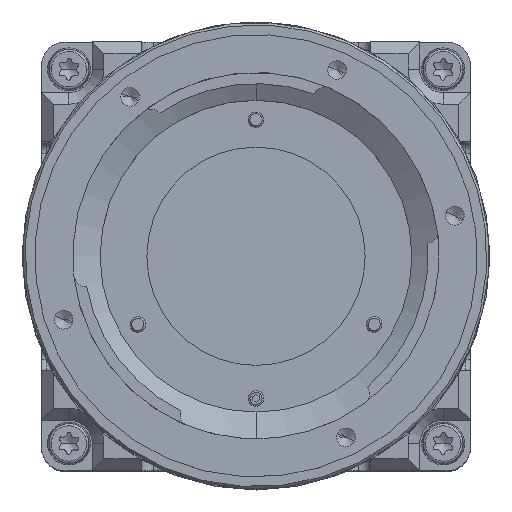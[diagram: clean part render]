
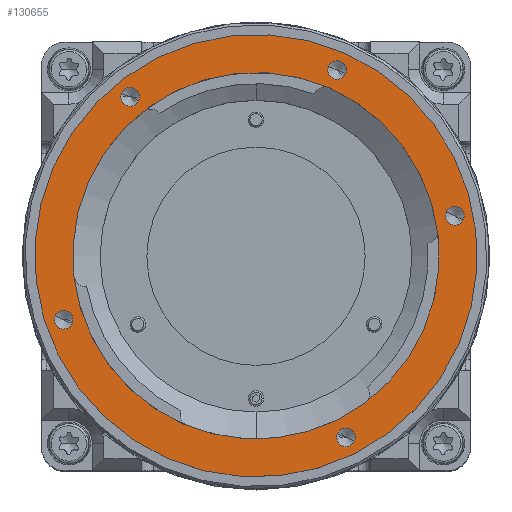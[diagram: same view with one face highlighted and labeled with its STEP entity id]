
A CAD part, top view. The second image highlights one B-rep face of the part: STEP entity #130655.
In plain terms, the highlighted planar face has unit normal (0, 0, 1).
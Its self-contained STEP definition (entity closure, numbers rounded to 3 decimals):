
#303 = CARTESIAN_POINT ( 'NONE',  ( 0., 0., 54.344 ) ) ;
#511 = DIRECTION ( 'NONE',  ( 0., 0., 1. ) ) ;
#3941 = DIRECTION ( 'NONE',  ( 0.916, -0.401, 0. ) ) ;
#4302 = DIRECTION ( 'NONE',  ( 0.916, -0.401, 0. ) ) ;
#6260 = AXIS2_PLACEMENT_3D ( 'NONE', #140104, #122855, #66965 ) ;
#6762 = CARTESIAN_POINT ( 'NONE',  ( 25.488, 5.132, 54.344 ) ) ;
#6978 = VERTEX_POINT ( 'NONE', #81584 ) ;
#7149 = ORIENTED_EDGE ( 'NONE', *, *, #125269, .F. ) ;
#8449 = CARTESIAN_POINT ( 'NONE',  ( -24.673, -8.2, 54.344 ) ) ;
#8832 = ORIENTED_EDGE ( 'NONE', *, *, #20323, .F. ) ;
#9115 = ORIENTED_EDGE ( 'NONE', *, *, #12937, .F. ) ;
#12937 = EDGE_CURVE ( 'NONE', #18758, #37312, #96076, .T. ) ;
#16169 = CIRCLE ( 'NONE', #136106, 28.375 ) ;
#17104 = CIRCLE ( 'NONE', #124658, 1.2 ) ;
#17803 = CARTESIAN_POINT ( 'NONE',  ( 25.999, -11.367, 54.344 ) ) ;
#18379 = DIRECTION ( 'NONE',  ( 0., 0., 1. ) ) ;
#18758 = VERTEX_POINT ( 'NONE', #179960 ) ;
#18959 = DIRECTION ( 'NONE',  ( 0.916, -0.401, 0. ) ) ;
#19255 = AXIS2_PLACEMENT_3D ( 'NONE', #8449, #95096, #138449 ) ;
#20323 = EDGE_CURVE ( 'NONE', #119487, #34934, #119203, .T. ) ;
#24675 = EDGE_LOOP ( 'NONE', ( #56058, #108823 ) ) ;
#27723 = ORIENTED_EDGE ( 'NONE', *, *, #82345, .F. ) ;
#28053 = CARTESIAN_POINT ( 'NONE',  ( 12.653, -23.772, 54.344 ) ) ;
#29710 = CARTESIAN_POINT ( 'NONE',  ( -25.999, 11.367, 54.344 ) ) ;
#32192 = CARTESIAN_POINT ( 'NONE',  ( -21.532, 9.414, 54.344 ) ) ;
#34450 = AXIS2_PLACEMENT_3D ( 'NONE', #136173, #153449, #37943 ) ;
#34508 = CARTESIAN_POINT ( 'NONE',  ( 11.515, 23.342, 54.344 ) ) ;
#34934 = VERTEX_POINT ( 'NONE', #170926 ) ;
#36906 = CIRCLE ( 'NONE', #79869, 1.2 ) ;
#37312 = VERTEX_POINT ( 'NONE', #99960 ) ;
#37943 = DIRECTION ( 'NONE',  ( 0.916, -0.401, 0. ) ) ;
#39811 = VERTEX_POINT ( 'NONE', #174175 ) ;
#40735 = CIRCLE ( 'NONE', #80679, 28.375 ) ;
#41275 = VERTEX_POINT ( 'NONE', #59401 ) ;
#41320 = PLANE ( 'NONE',  #171089 ) ;
#46179 = VERTEX_POINT ( 'NONE', #29710 ) ;
#46660 = ORIENTED_EDGE ( 'NONE', *, *, #135994, .F. ) ;
#49499 = CARTESIAN_POINT ( 'NONE',  ( 0., 0., 54.344 ) ) ;
#50608 = CARTESIAN_POINT ( 'NONE',  ( 25.488, 5.132, 54.344 ) ) ;
#50940 = DIRECTION ( 'NONE',  ( 0., 0., 1. ) ) ;
#51536 = DIRECTION ( 'NONE',  ( 0., 0., 1. ) ) ;
#53815 = VERTEX_POINT ( 'NONE', #17803 ) ;
#54538 = AXIS2_PLACEMENT_3D ( 'NONE', #59034, #58042, #116860 ) ;
#55956 = CIRCLE ( 'NONE', #188223, 1.2 ) ;
#56058 = ORIENTED_EDGE ( 'NONE', *, *, #159130, .T. ) ;
#58042 = DIRECTION ( 'NONE',  ( 0., 0., 1. ) ) ;
#59034 = CARTESIAN_POINT ( 'NONE',  ( 10.416, 23.822, 54.344 ) ) ;
#59401 = CARTESIAN_POINT ( 'NONE',  ( -23.574, -8.681, 54.344 ) ) ;
#60087 = DIRECTION ( 'NONE',  ( 0.916, -0.401, 0. ) ) ;
#66965 = DIRECTION ( 'NONE',  ( 0.916, -0.401, 0. ) ) ;
#69223 = VERTEX_POINT ( 'NONE', #32192 ) ;
#70196 = FACE_BOUND ( 'NONE', #109975, .T. ) ;
#76022 = EDGE_LOOP ( 'NONE', ( #8832, #108549 ) ) ;
#79853 = DIRECTION ( 'NONE',  ( 0., 0., 1. ) ) ;
#79869 = AXIS2_PLACEMENT_3D ( 'NONE', #105372, #511, #60087 ) ;
#80679 = AXIS2_PLACEMENT_3D ( 'NONE', #49499, #108234, #180403 ) ;
#80729 = DIRECTION ( 'NONE',  ( 0., 0., 1. ) ) ;
#81584 = CARTESIAN_POINT ( 'NONE',  ( 10.454, -22.811, 54.344 ) ) ;
#81819 = ORIENTED_EDGE ( 'NONE', *, *, #164068, .F. ) ;
#82345 = EDGE_CURVE ( 'NONE', #41275, #105376, #114602, .T. ) ;
#83386 = CARTESIAN_POINT ( 'NONE',  ( -17.244, 20.861, 54.344 ) ) ;
#83683 = FACE_BOUND ( 'NONE', #145442, .T. ) ;
#91435 = ORIENTED_EDGE ( 'NONE', *, *, #126449, .F. ) ;
#91517 = CARTESIAN_POINT ( 'NONE',  ( 11.554, -23.292, 54.344 ) ) ;
#95096 = DIRECTION ( 'NONE',  ( 0., 0., 1. ) ) ;
#96076 = CIRCLE ( 'NONE', #151454, 1.2 ) ;
#98100 = EDGE_CURVE ( 'NONE', #39811, #149409, #141061, .T. ) ;
#98982 = CIRCLE ( 'NONE', #34450, 1.2 ) ;
#99960 = CARTESIAN_POINT ( 'NONE',  ( 24.389, 5.613, 54.344 ) ) ;
#100228 = AXIS2_PLACEMENT_3D ( 'NONE', #184677, #80729, #139449 ) ;
#101246 = EDGE_LOOP ( 'NONE', ( #105825, #165826 ) ) ;
#101504 = AXIS2_PLACEMENT_3D ( 'NONE', #136169, #168878, #4302 ) ;
#102343 = EDGE_CURVE ( 'NONE', #34934, #119487, #118832, .T. ) ;
#105372 = CARTESIAN_POINT ( 'NONE',  ( -24.673, -8.2, 54.344 ) ) ;
#105376 = VERTEX_POINT ( 'NONE', #156409 ) ;
#105825 = ORIENTED_EDGE ( 'NONE', *, *, #170482, .F. ) ;
#108234 = DIRECTION ( 'NONE',  ( 0., 0., 1. ) ) ;
#108549 = ORIENTED_EDGE ( 'NONE', *, *, #102343, .F. ) ;
#108823 = ORIENTED_EDGE ( 'NONE', *, *, #176117, .T. ) ;
#109975 = EDGE_LOOP ( 'NONE', ( #27723, #187693 ) ) ;
#111108 = VERTEX_POINT ( 'NONE', #158192 ) ;
#111649 = FACE_BOUND ( 'NONE', #180944, .T. ) ;
#112984 = VERTEX_POINT ( 'NONE', #28053 ) ;
#113535 = DIRECTION ( 'NONE',  ( 0.916, -0.401, 0. ) ) ;
#114513 = CARTESIAN_POINT ( 'NONE',  ( 9.414, 21.532, 54.344 ) ) ;
#114602 = CIRCLE ( 'NONE', #19255, 1.2 ) ;
#116860 = DIRECTION ( 'NONE',  ( 0.916, -0.401, 0. ) ) ;
#117722 = DIRECTION ( 'NONE',  ( 0.916, -0.401, 0. ) ) ;
#118832 = CIRCLE ( 'NONE', #100228, 1.2 ) ;
#119203 = CIRCLE ( 'NONE', #54538, 1.2 ) ;
#119487 = VERTEX_POINT ( 'NONE', #34508 ) ;
#121009 = CARTESIAN_POINT ( 'NONE',  ( -16.144, 20.381, 54.344 ) ) ;
#122855 = DIRECTION ( 'NONE',  ( 0., 0., 1. ) ) ;
#124658 = AXIS2_PLACEMENT_3D ( 'NONE', #91517, #18379, #3941 ) ;
#125269 = EDGE_CURVE ( 'NONE', #111108, #69223, #178283, .T. ) ;
#125445 = EDGE_CURVE ( 'NONE', #105376, #41275, #36906, .T. ) ;
#126449 = EDGE_CURVE ( 'NONE', #149409, #39811, #98982, .T. ) ;
#128572 = CIRCLE ( 'NONE', #153205, 23.5 ) ;
#128917 = FACE_BOUND ( 'NONE', #177144, .T. ) ;
#130655 = ADVANCED_FACE ( 'NONE', ( #140485, #83683, #142393, #70196, #111649, #128917, #161686 ), #41320, .F. ) ;
#134975 = DIRECTION ( 'NONE',  ( 0., 0., 1. ) ) ;
#135994 = EDGE_CURVE ( 'NONE', #37312, #18758, #55956, .T. ) ;
#136106 = AXIS2_PLACEMENT_3D ( 'NONE', #154006, #79853, #167543 ) ;
#136169 = CARTESIAN_POINT ( 'NONE',  ( 11.554, -23.292, 54.344 ) ) ;
#136173 = CARTESIAN_POINT ( 'NONE',  ( -16.144, 20.381, 54.344 ) ) ;
#138449 = DIRECTION ( 'NONE',  ( 0.916, -0.401, 0. ) ) ;
#139449 = DIRECTION ( 'NONE',  ( 0.916, -0.401, 0. ) ) ;
#140104 = CARTESIAN_POINT ( 'NONE',  ( 0., 0., 54.344 ) ) ;
#140485 = FACE_BOUND ( 'NONE', #76022, .T. ) ;
#141061 = CIRCLE ( 'NONE', #172318, 1.2 ) ;
#142393 = FACE_BOUND ( 'NONE', #101246, .T. ) ;
#145442 = EDGE_LOOP ( 'NONE', ( #9115, #46660 ) ) ;
#147147 = DIRECTION ( 'NONE',  ( 0., 0., -1. ) ) ;
#149409 = VERTEX_POINT ( 'NONE', #83386 ) ;
#151454 = AXIS2_PLACEMENT_3D ( 'NONE', #6762, #50940, #113535 ) ;
#153205 = AXIS2_PLACEMENT_3D ( 'NONE', #303, #134975, #117722 ) ;
#153449 = DIRECTION ( 'NONE',  ( 0., 0., 1. ) ) ;
#153635 = DIRECTION ( 'NONE',  ( 0., 0., 1. ) ) ;
#154006 = CARTESIAN_POINT ( 'NONE',  ( 0., 0., 54.344 ) ) ;
#156409 = CARTESIAN_POINT ( 'NONE',  ( -25.773, -7.719, 54.344 ) ) ;
#158192 = CARTESIAN_POINT ( 'NONE',  ( 21.532, -9.414, 54.344 ) ) ;
#159130 = EDGE_CURVE ( 'NONE', #53815, #46179, #16169, .T. ) ;
#161533 = EDGE_CURVE ( 'NONE', #6978, #112984, #17104, .T. ) ;
#161686 = FACE_OUTER_BOUND ( 'NONE', #24675, .T. ) ;
#164068 = EDGE_CURVE ( 'NONE', #69223, #111108, #128572, .T. ) ;
#165826 = ORIENTED_EDGE ( 'NONE', *, *, #161533, .F. ) ;
#167543 = DIRECTION ( 'NONE',  ( 0.916, -0.401, 0. ) ) ;
#168878 = DIRECTION ( 'NONE',  ( 0., 0., 1. ) ) ;
#170482 = EDGE_CURVE ( 'NONE', #112984, #6978, #184537, .T. ) ;
#170926 = CARTESIAN_POINT ( 'NONE',  ( 9.316, 24.303, 54.344 ) ) ;
#171089 = AXIS2_PLACEMENT_3D ( 'NONE', #114513, #147147, #173208 ) ;
#172318 = AXIS2_PLACEMENT_3D ( 'NONE', #121009, #153635, #179674 ) ;
#173208 = DIRECTION ( 'NONE',  ( -0.916, 0.401, 0. ) ) ;
#174175 = CARTESIAN_POINT ( 'NONE',  ( -15.045, 19.9, 54.344 ) ) ;
#175742 = ORIENTED_EDGE ( 'NONE', *, *, #98100, .F. ) ;
#176117 = EDGE_CURVE ( 'NONE', #46179, #53815, #40735, .T. ) ;
#177144 = EDGE_LOOP ( 'NONE', ( #7149, #81819 ) ) ;
#178283 = CIRCLE ( 'NONE', #6260, 23.5 ) ;
#179674 = DIRECTION ( 'NONE',  ( 0.916, -0.401, 0. ) ) ;
#179960 = CARTESIAN_POINT ( 'NONE',  ( 26.588, 4.651, 54.344 ) ) ;
#180403 = DIRECTION ( 'NONE',  ( 0.916, -0.401, 0. ) ) ;
#180944 = EDGE_LOOP ( 'NONE', ( #175742, #91435 ) ) ;
#184537 = CIRCLE ( 'NONE', #101504, 1.2 ) ;
#184677 = CARTESIAN_POINT ( 'NONE',  ( 10.416, 23.822, 54.344 ) ) ;
#187693 = ORIENTED_EDGE ( 'NONE', *, *, #125445, .F. ) ;
#188223 = AXIS2_PLACEMENT_3D ( 'NONE', #50608, #51536, #18959 ) ;
